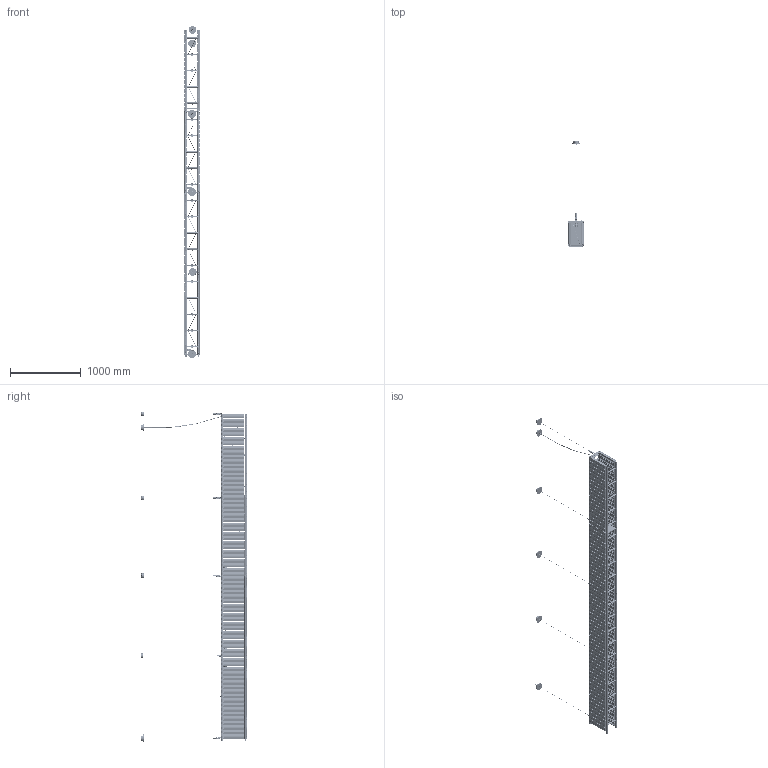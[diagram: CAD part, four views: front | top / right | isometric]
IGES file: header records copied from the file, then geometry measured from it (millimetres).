
Start section: SolidWorks IGES file using analytic representation for surfaces
Global section: file name: C:\Users\berta.gumma\OneDrive - santa &cole\Desktop\estadio lineal 4 modulos ce.IGS; native system: SolidWorks 2021; preprocessor: SolidWorks 2021; author: berta.gumma; date: 230927.113422; units: millimetre
Bounding box: 238.46 x 1540.88 x 4676.46 mm (x, y, z)
Surface area: 16085866.1 mm2 (no closed solid volume)
Topology: 0 solids, 0 shells, 31691 faces, 421017 edges, 420797 vertices
Faces by surface type: revolution 15855, bspline 15836
